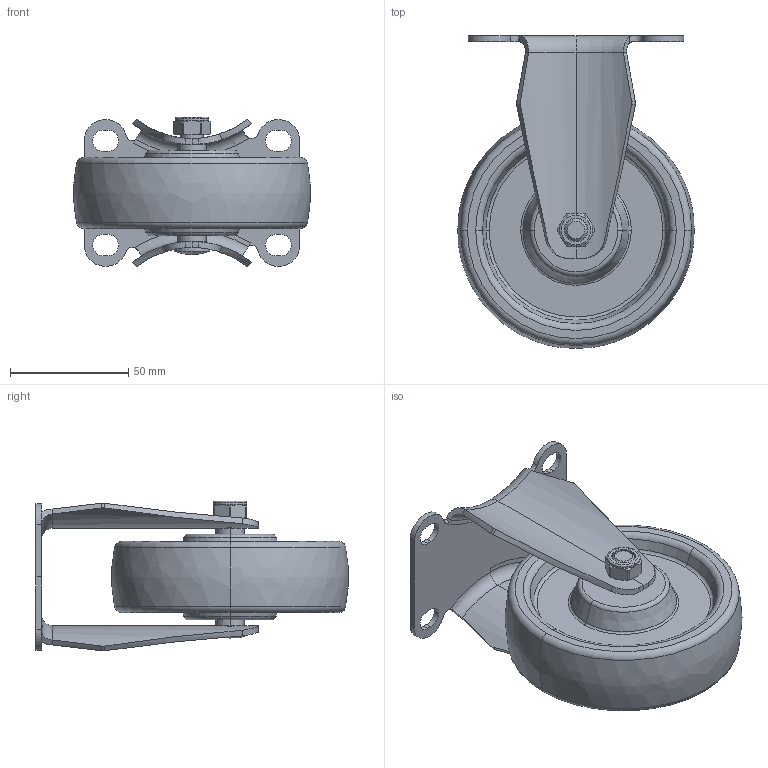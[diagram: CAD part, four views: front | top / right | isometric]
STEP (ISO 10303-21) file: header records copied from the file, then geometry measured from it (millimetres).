
FILE_DESCRIPTION((''),'2;1');
FILE_NAME('C54104_ASM','2024-10-10T',('Lenovo'),(''),'PRO/ENGINEER BY PARAMETRIC TECHNOLOGY CORPORATION, 2010280','PRO/ENGINEER BY PARAMETRIC TECHNOLOGY CORPORATION, 2010280','');
FILE_SCHEMA(('CONFIG_CONTROL_DESIGN'));
Length unit declared in the file: millimetre
Products named in the file (6): C544-10; C544-906; 500-54; 5710-020; 5710-031; C54104_ASM
Assembly tree (5 placements, depth 2):
  C54104_ASM
    C544-10
    C544-906
    500-54
    5710-020
    5710-031
Bounding box: 99.73 x 131.86 x 63.17 mm (x, y, z)
Volume: 220600.7 mm3; surface area: 58978.1 mm2
Topology: 5 solids, 5 shells, 189 faces, 462 edges, 283 vertices
Faces by surface type: plane 57, cylinder 46, torus 30, bspline 28, cone 26, sphere 2
Entity records: 6683 total; most frequent: CARTESIAN_POINT 2183, ORIENTED_EDGE 920, DIRECTION 918, EDGE_CURVE 460, AXIS2_PLACEMENT_3D 378, VERTEX_POINT 283, EDGE_LOOP 209, CIRCLE 206
